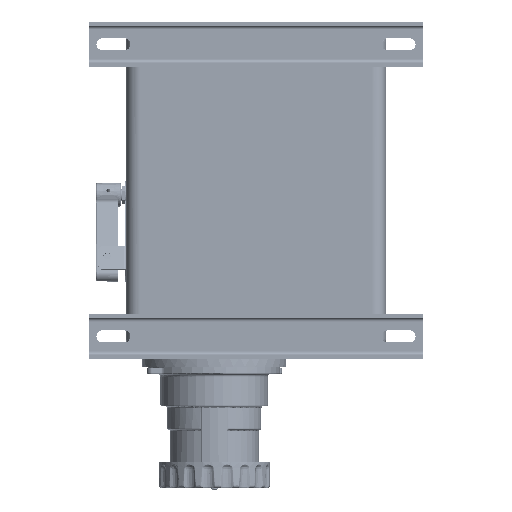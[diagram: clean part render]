
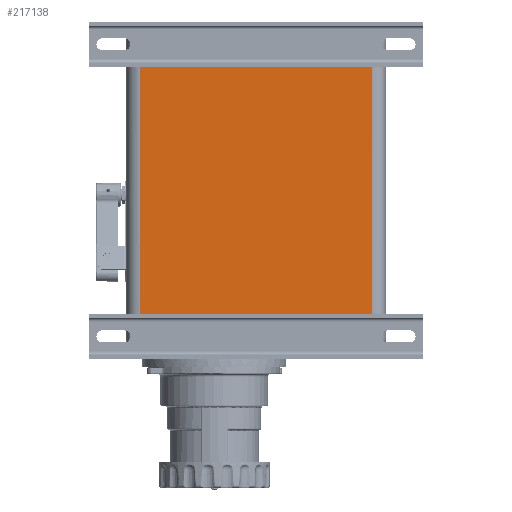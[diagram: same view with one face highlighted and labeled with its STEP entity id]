
A CAD part, left-side view. The second image highlights one B-rep face of the part: STEP entity #217138.
In plain terms, the highlighted planar face has unit normal (-1, 0, 0).
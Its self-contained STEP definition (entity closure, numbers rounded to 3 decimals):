
#201481=CARTESIAN_POINT('',(0.011,124.986,137.655));
#201482=VERTEX_POINT('',#201481);
#201483=CARTESIAN_POINT('',(0.011,124.986,-148.34));
#201484=VERTEX_POINT('',#201483);
#201485=CARTESIAN_POINT('',(0.011,124.986,137.655));
#201486=DIRECTION('',(0.0,0.0,-1.0));
#201487=VECTOR('',#201486,285.995);
#201488=LINE('',#201485,#201487);
#201489=EDGE_CURVE('',#201482,#201484,#201488,.T.);
#206135=CARTESIAN_POINT('',(0.011,-107.997,-165.328));
#206136=VERTEX_POINT('',#206135);
#206143=CARTESIAN_POINT('',(0.011,107.997,-165.328));
#206144=VERTEX_POINT('',#206143);
#206145=CARTESIAN_POINT('',(0.011,107.997,-165.328));
#206146=DIRECTION('',(0.0,-1.0,0.0));
#206147=VECTOR('',#206146,215.995);
#206148=LINE('',#206145,#206147);
#206149=EDGE_CURVE('',#206144,#206136,#206148,.T.);
#217017=CARTESIAN_POINT('',(0.011,0.,-5.342));
#217018=DIRECTION('',(1.0,0.0,0.0));
#217019=DIRECTION('',(0.0,0.0,-1.0));
#217020=AXIS2_PLACEMENT_3D('',#217017,#217018,#217019);
#217021=PLANE('',#217020);
#217022=CARTESIAN_POINT('',(0.011,-120.,137.655));
#217023=VERTEX_POINT('',#217022);
#217024=CARTESIAN_POINT('',(0.011,-124.986,137.655));
#217025=VERTEX_POINT('',#217024);
#217026=CARTESIAN_POINT('',(0.011,-120.,137.655));
#217027=DIRECTION('',(0.0,-1.0,0.0));
#217028=VECTOR('',#217027,4.986);
#217029=LINE('',#217026,#217028);
#217030=EDGE_CURVE('',#217023,#217025,#217029,.T.);
#217031=ORIENTED_EDGE('',*,*,#217030,.F.);
#217032=CARTESIAN_POINT('',(0.011,-107.997,149.658));
#217033=VERTEX_POINT('',#217032);
#217034=CARTESIAN_POINT('',(0.011,-120.,149.658));
#217035=DIRECTION('',(-1.0,0.0,0.0));
#217036=DIRECTION('',(0.0,1.0,0.0));
#217037=AXIS2_PLACEMENT_3D('',#217034,#217035,#217036);
#217038=CIRCLE('',#217037,12.003);
#217039=EDGE_CURVE('',#217033,#217023,#217038,.T.);
#217040=ORIENTED_EDGE('',*,*,#217039,.F.);
#217041=CARTESIAN_POINT('',(0.011,-107.997,154.643));
#217042=VERTEX_POINT('',#217041);
#217043=CARTESIAN_POINT('',(0.011,-107.997,154.643));
#217044=DIRECTION('',(0.0,0.0,-1.0));
#217045=VECTOR('',#217044,4.986);
#217046=LINE('',#217043,#217045);
#217047=EDGE_CURVE('',#217042,#217033,#217046,.T.);
#217048=ORIENTED_EDGE('',*,*,#217047,.F.);
#217049=CARTESIAN_POINT('',(0.011,107.997,154.643));
#217050=VERTEX_POINT('',#217049);
#217051=CARTESIAN_POINT('',(0.011,-107.997,154.643));
#217052=DIRECTION('',(0.0,1.0,0.0));
#217053=VECTOR('',#217052,215.995);
#217054=LINE('',#217051,#217053);
#217055=EDGE_CURVE('',#217042,#217050,#217054,.T.);
#217056=ORIENTED_EDGE('',*,*,#217055,.T.);
#217057=CARTESIAN_POINT('',(0.011,107.997,149.658));
#217058=VERTEX_POINT('',#217057);
#217059=CARTESIAN_POINT('',(0.011,107.997,149.658));
#217060=DIRECTION('',(0.0,0.0,1.0));
#217061=VECTOR('',#217060,4.986);
#217062=LINE('',#217059,#217061);
#217063=EDGE_CURVE('',#217058,#217050,#217062,.T.);
#217064=ORIENTED_EDGE('',*,*,#217063,.F.);
#217065=CARTESIAN_POINT('',(0.011,120.,137.655));
#217066=VERTEX_POINT('',#217065);
#217067=CARTESIAN_POINT('',(0.011,120.,149.658));
#217068=DIRECTION('',(-1.0,0.0,0.0));
#217069=DIRECTION('',(0.0,1.0,0.0));
#217070=AXIS2_PLACEMENT_3D('',#217067,#217068,#217069);
#217071=CIRCLE('',#217070,12.003);
#217072=EDGE_CURVE('',#217066,#217058,#217071,.T.);
#217073=ORIENTED_EDGE('',*,*,#217072,.F.);
#217074=CARTESIAN_POINT('',(0.011,124.986,137.655));
#217075=DIRECTION('',(0.0,-1.0,0.0));
#217076=VECTOR('',#217075,4.986);
#217077=LINE('',#217074,#217076);
#217078=EDGE_CURVE('',#201482,#217066,#217077,.T.);
#217079=ORIENTED_EDGE('',*,*,#217078,.F.);
#217080=ORIENTED_EDGE('',*,*,#201489,.T.);
#217081=CARTESIAN_POINT('',(0.011,120.,-148.34));
#217082=VERTEX_POINT('',#217081);
#217083=CARTESIAN_POINT('',(0.011,120.,-148.34));
#217084=DIRECTION('',(0.0,1.0,0.0));
#217085=VECTOR('',#217084,4.986);
#217086=LINE('',#217083,#217085);
#217087=EDGE_CURVE('',#217082,#201484,#217086,.T.);
#217088=ORIENTED_EDGE('',*,*,#217087,.F.);
#217089=CARTESIAN_POINT('',(0.011,107.997,-160.342));
#217090=VERTEX_POINT('',#217089);
#217091=CARTESIAN_POINT('',(0.011,120.,-160.342));
#217092=DIRECTION('',(-1.0,0.0,0.0));
#217093=DIRECTION('',(0.0,1.0,0.0));
#217094=AXIS2_PLACEMENT_3D('',#217091,#217092,#217093);
#217095=CIRCLE('',#217094,12.003);
#217096=EDGE_CURVE('',#217090,#217082,#217095,.T.);
#217097=ORIENTED_EDGE('',*,*,#217096,.F.);
#217098=CARTESIAN_POINT('',(0.011,107.997,-165.328));
#217099=DIRECTION('',(0.0,0.0,1.0));
#217100=VECTOR('',#217099,4.986);
#217101=LINE('',#217098,#217100);
#217102=EDGE_CURVE('',#206144,#217090,#217101,.T.);
#217103=ORIENTED_EDGE('',*,*,#217102,.F.);
#217104=ORIENTED_EDGE('',*,*,#206149,.T.);
#217105=CARTESIAN_POINT('',(0.011,-107.997,-160.342));
#217106=VERTEX_POINT('',#217105);
#217107=CARTESIAN_POINT('',(0.011,-107.997,-160.342));
#217108=DIRECTION('',(0.0,0.0,-1.0));
#217109=VECTOR('',#217108,4.986);
#217110=LINE('',#217107,#217109);
#217111=EDGE_CURVE('',#217106,#206136,#217110,.T.);
#217112=ORIENTED_EDGE('',*,*,#217111,.F.);
#217113=CARTESIAN_POINT('',(0.011,-120.,-148.34));
#217114=VERTEX_POINT('',#217113);
#217115=CARTESIAN_POINT('',(0.011,-120.,-160.342));
#217116=DIRECTION('',(-1.0,0.0,0.0));
#217117=DIRECTION('',(0.0,1.0,0.0));
#217118=AXIS2_PLACEMENT_3D('',#217115,#217116,#217117);
#217119=CIRCLE('',#217118,12.003);
#217120=EDGE_CURVE('',#217114,#217106,#217119,.T.);
#217121=ORIENTED_EDGE('',*,*,#217120,.F.);
#217122=CARTESIAN_POINT('',(0.011,-124.986,-148.34));
#217123=VERTEX_POINT('',#217122);
#217124=CARTESIAN_POINT('',(0.011,-124.986,-148.34));
#217125=DIRECTION('',(0.0,1.0,0.0));
#217126=VECTOR('',#217125,4.986);
#217127=LINE('',#217124,#217126);
#217128=EDGE_CURVE('',#217123,#217114,#217127,.T.);
#217129=ORIENTED_EDGE('',*,*,#217128,.F.);
#217130=CARTESIAN_POINT('',(0.011,-124.986,-148.34));
#217131=DIRECTION('',(0.0,0.0,1.0));
#217132=VECTOR('',#217131,285.995);
#217133=LINE('',#217130,#217132);
#217134=EDGE_CURVE('',#217123,#217025,#217133,.T.);
#217135=ORIENTED_EDGE('',*,*,#217134,.T.);
#217136=EDGE_LOOP('',(#217031,#217040,#217048,#217056,#217064,#217073,#217079,#217080,#217088,#217097,#217103,#217104,#217112,#217121,#217129,#217135));
#217137=FACE_OUTER_BOUND('',#217136,.T.);
#217138=ADVANCED_FACE('',(#217137),#217021,.F.);
